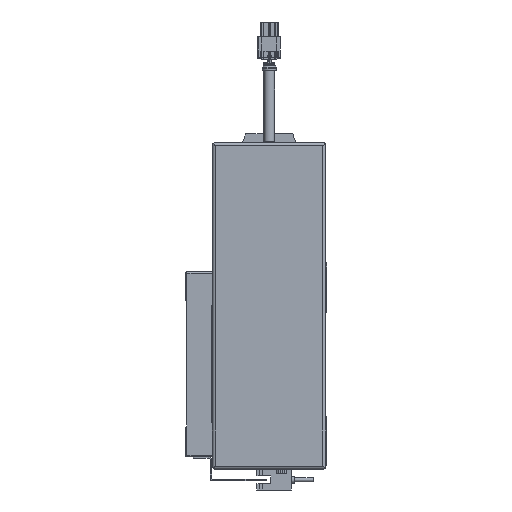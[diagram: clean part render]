
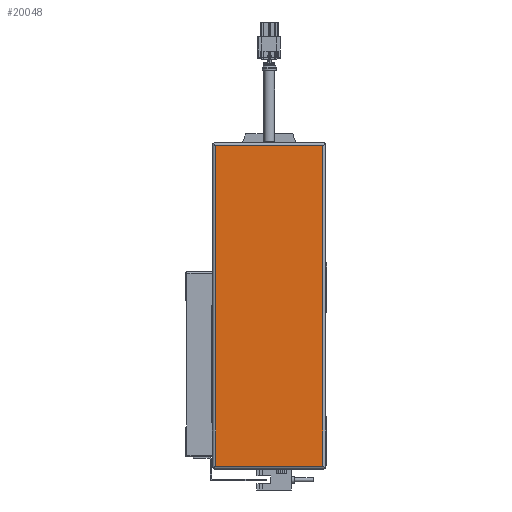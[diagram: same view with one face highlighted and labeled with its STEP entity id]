
A CAD part, left-side view. The second image highlights one B-rep face of the part: STEP entity #20048.
In plain terms, the highlighted planar face has unit normal (-1, 0, 0).
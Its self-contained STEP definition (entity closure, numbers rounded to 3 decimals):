
#4768=ORIENTED_EDGE('',*,*,#8490,.F.);
#4769=ORIENTED_EDGE('',*,*,#8491,.F.);
#4770=ORIENTED_EDGE('',*,*,#8492,.T.);
#4771=ORIENTED_EDGE('',*,*,#8493,.T.);
#8490=EDGE_CURVE('',#10695,#10696,#12820,.T.);
#8491=EDGE_CURVE('',#10697,#10695,#12821,.T.);
#8492=EDGE_CURVE('',#10697,#10698,#12822,.T.);
#8493=EDGE_CURVE('',#10698,#10696,#12823,.T.);
#10695=VERTEX_POINT('',#32016);
#10696=VERTEX_POINT('',#32017);
#10697=VERTEX_POINT('',#32019);
#10698=VERTEX_POINT('',#32021);
#12820=LINE('',#32015,#14917);
#12821=LINE('',#32018,#14918);
#12822=LINE('',#32020,#14919);
#12823=LINE('',#32022,#14920);
#14917=VECTOR('',#26071,1000.);
#14918=VECTOR('',#26072,1000.);
#14919=VECTOR('',#26073,1000.);
#14920=VECTOR('',#26074,1000.);
#16485=EDGE_LOOP('',(#4768,#4769,#4770,#4771));
#17956=FACE_BOUND('',#16485,.T.);
#19058=PLANE('',#21674);
#20048=ADVANCED_FACE('',(#17956),#19058,.F.);
#21674=AXIS2_PLACEMENT_3D('',#32014,#26069,#26070);
#26069=DIRECTION('',(1.,0.,0.));
#26070=DIRECTION('',(0.,0.,-1.));
#26071=DIRECTION('',(0.,0.,-1.));
#26072=DIRECTION('',(0.,-1.,0.));
#26073=DIRECTION('',(0.,0.,-1.));
#26074=DIRECTION('',(0.,-1.,0.));
#32014=CARTESIAN_POINT('',(-52.,2.,34.5));
#32015=CARTESIAN_POINT('',(-52.,2.,36.5));
#32016=CARTESIAN_POINT('',(-52.,2.,34.5));
#32017=CARTESIAN_POINT('',(-52.,2.,-34.5));
#32018=CARTESIAN_POINT('',(-52.,210.,34.5));
#32019=CARTESIAN_POINT('',(-52.,208.,34.5));
#32020=CARTESIAN_POINT('',(-52.,208.,36.5));
#32021=CARTESIAN_POINT('',(-52.,208.,-34.5));
#32022=CARTESIAN_POINT('',(-52.,210.,-34.5));
